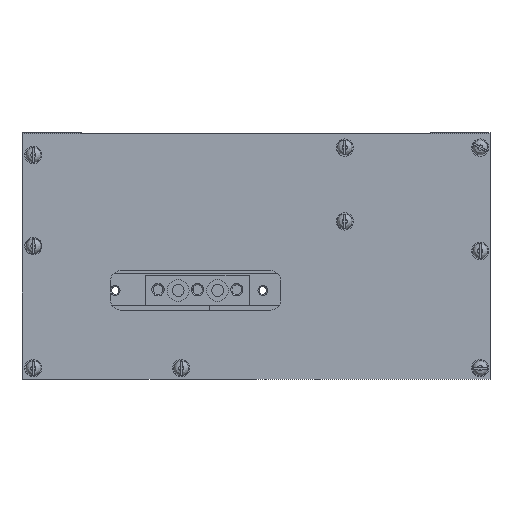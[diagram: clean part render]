
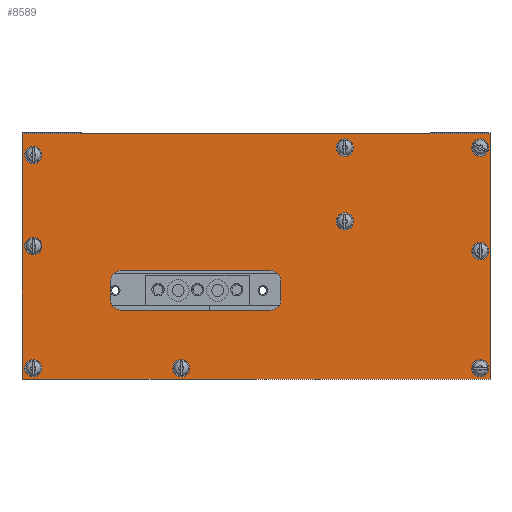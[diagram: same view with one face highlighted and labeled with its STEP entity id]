
A CAD part, top view. The second image highlights one B-rep face of the part: STEP entity #8589.
In plain terms, the highlighted planar face has unit normal (0, 0, 1).
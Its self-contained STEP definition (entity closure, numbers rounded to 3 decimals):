
#5857=CARTESIAN_POINT('',(52.5,-21.22,1.598));
#5858=VERTEX_POINT('',#5857);
#5865=CARTESIAN_POINT('',(52.5,-17.22,1.598));
#5866=VERTEX_POINT('',#5865);
#5867=CARTESIAN_POINT('',(52.5,-17.22,1.598));
#5868=DIRECTION('',(0.0,-1.0,0.0));
#5869=VECTOR('',#5868,4.0);
#5870=LINE('',#5867,#5869);
#5871=EDGE_CURVE('',#5866,#5858,#5870,.T.);
#5897=CARTESIAN_POINT('',(50.5,-15.22,1.598));
#5898=VERTEX_POINT('',#5897);
#5899=CARTESIAN_POINT('',(50.5,-17.22,1.598));
#5900=DIRECTION('',(0.0,0.0,-1.0));
#5901=DIRECTION('',(-1.0,0.0,0.0));
#5902=AXIS2_PLACEMENT_3D('',#5899,#5900,#5901);
#5903=CIRCLE('',#5902,2.);
#5904=EDGE_CURVE('',#5898,#5866,#5903,.T.);
#5929=CARTESIAN_POINT('',(20.0,-15.22,1.598));
#5930=VERTEX_POINT('',#5929);
#5931=CARTESIAN_POINT('',(20.0,-15.22,1.598));
#5932=DIRECTION('',(1.0,0.0,0.0));
#5933=VECTOR('',#5932,30.5);
#5934=LINE('',#5931,#5933);
#5935=EDGE_CURVE('',#5930,#5898,#5934,.T.);
#5961=CARTESIAN_POINT('',(18.,-17.22,1.598));
#5962=VERTEX_POINT('',#5961);
#5963=CARTESIAN_POINT('',(20.0,-17.22,1.598));
#5964=DIRECTION('',(0.0,0.0,-1.0));
#5965=DIRECTION('',(0.0,-1.0,0.0));
#5966=AXIS2_PLACEMENT_3D('',#5963,#5964,#5965);
#5967=CIRCLE('',#5966,2.0);
#5968=EDGE_CURVE('',#5962,#5930,#5967,.T.);
#5993=CARTESIAN_POINT('',(18.,-21.22,1.598));
#5994=VERTEX_POINT('',#5993);
#5995=CARTESIAN_POINT('',(18.,-21.22,1.598));
#5996=DIRECTION('',(0.0,1.0,0.0));
#5997=VECTOR('',#5996,4.0);
#5998=LINE('',#5995,#5997);
#5999=EDGE_CURVE('',#5994,#5962,#5998,.T.);
#6025=CARTESIAN_POINT('',(20.0,-23.22,1.598));
#6026=VERTEX_POINT('',#6025);
#6027=CARTESIAN_POINT('',(20.0,-21.22,1.598));
#6028=DIRECTION('',(0.0,0.0,-1.0));
#6029=DIRECTION('',(1.0,0.0,0.0));
#6030=AXIS2_PLACEMENT_3D('',#6027,#6028,#6029);
#6031=CIRCLE('',#6030,2.);
#6032=EDGE_CURVE('',#6026,#5994,#6031,.T.);
#6057=CARTESIAN_POINT('',(50.5,-23.22,1.598));
#6058=VERTEX_POINT('',#6057);
#6059=CARTESIAN_POINT('',(50.5,-23.22,1.598));
#6060=DIRECTION('',(-1.0,0.0,0.0));
#6061=VECTOR('',#6060,30.5);
#6062=LINE('',#6059,#6061);
#6063=EDGE_CURVE('',#6058,#6026,#6062,.T.);
#6087=CARTESIAN_POINT('',(50.5,-21.22,1.598));
#6088=DIRECTION('',(0.0,0.0,-1.0));
#6089=DIRECTION('',(0.0,1.0,0.0));
#6090=AXIS2_PLACEMENT_3D('',#6087,#6088,#6089);
#6091=CIRCLE('',#6090,2.);
#6092=EDGE_CURVE('',#5858,#6058,#6091,.T.);
#7119=CARTESIAN_POINT('',(67.25,-5.22,1.598));
#7120=VERTEX_POINT('',#7119);
#7121=CARTESIAN_POINT('',(65.5,-5.22,1.598));
#7122=DIRECTION('',(0.0,0.0,-1.0));
#7123=DIRECTION('',(1.0,0.0,0.0));
#7124=AXIS2_PLACEMENT_3D('',#7121,#7122,#7123);
#7125=CIRCLE('',#7124,1.75);
#7126=EDGE_CURVE('',#7120,#7120,#7125,.T.);
#7179=CARTESIAN_POINT('',(94.75,-35.02,1.598));
#7180=VERTEX_POINT('',#7179);
#7181=CARTESIAN_POINT('',(93.0,-35.02,1.598));
#7182=DIRECTION('',(0.0,0.0,-1.0));
#7183=DIRECTION('',(1.0,0.0,0.0));
#7184=AXIS2_PLACEMENT_3D('',#7181,#7182,#7183);
#7185=CIRCLE('',#7184,1.75);
#7186=EDGE_CURVE('',#7180,#7180,#7185,.T.);
#7239=CARTESIAN_POINT('',(94.75,-11.22,1.598));
#7240=VERTEX_POINT('',#7239);
#7241=CARTESIAN_POINT('',(93.0,-11.22,1.598));
#7242=DIRECTION('',(0.0,0.0,-1.0));
#7243=DIRECTION('',(1.0,0.0,0.0));
#7244=AXIS2_PLACEMENT_3D('',#7241,#7242,#7243);
#7245=CIRCLE('',#7244,1.75);
#7246=EDGE_CURVE('',#7240,#7240,#7245,.T.);
#7299=CARTESIAN_POINT('',(34.05,-35.02,1.598));
#7300=VERTEX_POINT('',#7299);
#7301=CARTESIAN_POINT('',(32.3,-35.02,1.598));
#7302=DIRECTION('',(0.0,0.0,-1.0));
#7303=DIRECTION('',(1.0,0.0,0.0));
#7304=AXIS2_PLACEMENT_3D('',#7301,#7302,#7303);
#7305=CIRCLE('',#7304,1.75);
#7306=EDGE_CURVE('',#7300,#7300,#7305,.T.);
#7525=CARTESIAN_POINT('',(0.0,-37.22,1.598));
#7526=VERTEX_POINT('',#7525);
#7533=CARTESIAN_POINT('',(0.,12.58,1.598));
#7534=VERTEX_POINT('',#7533);
#7535=CARTESIAN_POINT('',(0.0,-37.22,1.598));
#7536=DIRECTION('',(0.0,1.0,0.0));
#7537=VECTOR('',#7536,49.8);
#7538=LINE('',#7535,#7537);
#7539=EDGE_CURVE('',#7526,#7534,#7538,.T.);
#7584=CARTESIAN_POINT('',(67.25,9.78,1.598));
#7585=VERTEX_POINT('',#7584);
#7586=CARTESIAN_POINT('',(65.5,9.78,1.598));
#7587=DIRECTION('',(0.0,0.0,-1.0));
#7588=DIRECTION('',(1.0,0.0,0.0));
#7589=AXIS2_PLACEMENT_3D('',#7586,#7587,#7588);
#7590=CIRCLE('',#7589,1.75);
#7591=EDGE_CURVE('',#7585,#7585,#7590,.T.);
#7656=CARTESIAN_POINT('',(94.75,9.78,1.598));
#7657=VERTEX_POINT('',#7656);
#7658=CARTESIAN_POINT('',(93.0,9.78,1.598));
#7659=DIRECTION('',(0.0,0.0,-1.0));
#7660=DIRECTION('',(1.0,0.0,0.0));
#7661=AXIS2_PLACEMENT_3D('',#7658,#7659,#7660);
#7662=CIRCLE('',#7661,1.75);
#7663=EDGE_CURVE('',#7657,#7657,#7662,.T.);
#8036=CARTESIAN_POINT('',(4.05,-10.22,1.598));
#8037=VERTEX_POINT('',#8036);
#8038=CARTESIAN_POINT('',(2.3,-10.22,1.598));
#8039=DIRECTION('',(0.0,0.0,-1.0));
#8040=DIRECTION('',(1.0,0.0,0.0));
#8041=AXIS2_PLACEMENT_3D('',#8038,#8039,#8040);
#8042=CIRCLE('',#8041,1.75);
#8043=EDGE_CURVE('',#8037,#8037,#8042,.T.);
#8355=CARTESIAN_POINT('',(4.05,-35.02,1.598));
#8356=VERTEX_POINT('',#8355);
#8357=CARTESIAN_POINT('',(2.3,-35.02,1.598));
#8358=DIRECTION('',(0.0,0.0,-1.0));
#8359=DIRECTION('',(1.0,0.0,0.0));
#8360=AXIS2_PLACEMENT_3D('',#8357,#8358,#8359);
#8361=CIRCLE('',#8360,1.75);
#8362=EDGE_CURVE('',#8356,#8356,#8361,.T.);
#8449=CARTESIAN_POINT('',(4.05,8.28,1.598));
#8450=VERTEX_POINT('',#8449);
#8451=CARTESIAN_POINT('',(2.3,8.28,1.598));
#8452=DIRECTION('',(0.0,0.0,-1.0));
#8453=DIRECTION('',(1.0,0.0,0.0));
#8454=AXIS2_PLACEMENT_3D('',#8451,#8452,#8453);
#8455=CIRCLE('',#8454,1.75);
#8456=EDGE_CURVE('',#8450,#8450,#8455,.T.);
#8481=CARTESIAN_POINT('',(95.0,12.58,1.598));
#8482=VERTEX_POINT('',#8481);
#8483=CARTESIAN_POINT('',(95.0,-37.22,1.598));
#8484=VERTEX_POINT('',#8483);
#8485=CARTESIAN_POINT('',(95.0,12.58,1.598));
#8486=DIRECTION('',(0.0,-1.0,0.0));
#8487=VECTOR('',#8486,49.8);
#8488=LINE('',#8485,#8487);
#8489=EDGE_CURVE('',#8482,#8484,#8488,.T.);
#8512=CARTESIAN_POINT('',(95.0,-37.22,1.598));
#8513=DIRECTION('',(-1.0,0.0,0.0));
#8514=VECTOR('',#8513,95.0);
#8515=LINE('',#8512,#8514);
#8516=EDGE_CURVE('',#8484,#7526,#8515,.T.);
#8529=CARTESIAN_POINT('',(0.,12.58,1.598));
#8530=DIRECTION('',(1.0,0.0,0.0));
#8531=VECTOR('',#8530,95.0);
#8532=LINE('',#8529,#8531);
#8533=EDGE_CURVE('',#7534,#8482,#8532,.T.);
#8541=CARTESIAN_POINT('',(-4.75,-39.71,1.598));
#8542=DIRECTION('',(0.0,0.0,1.0));
#8543=DIRECTION('',(1.0,0.0,0.0));
#8544=AXIS2_PLACEMENT_3D('',#8541,#8542,#8543);
#8545=PLANE('',#8544);
#8546=ORIENTED_EDGE('',*,*,#8489,.F.);
#8547=ORIENTED_EDGE('',*,*,#8533,.F.);
#8548=ORIENTED_EDGE('',*,*,#7539,.F.);
#8549=ORIENTED_EDGE('',*,*,#8516,.F.);
#8550=EDGE_LOOP('',(#8546,#8547,#8548,#8549));
#8551=FACE_OUTER_BOUND('',#8550,.T.);
#8552=ORIENTED_EDGE('',*,*,#5999,.T.);
#8553=ORIENTED_EDGE('',*,*,#5968,.T.);
#8554=ORIENTED_EDGE('',*,*,#5935,.T.);
#8555=ORIENTED_EDGE('',*,*,#5904,.T.);
#8556=ORIENTED_EDGE('',*,*,#5871,.T.);
#8557=ORIENTED_EDGE('',*,*,#6092,.T.);
#8558=ORIENTED_EDGE('',*,*,#6063,.T.);
#8559=ORIENTED_EDGE('',*,*,#6032,.T.);
#8560=EDGE_LOOP('',(#8552,#8553,#8554,#8555,#8556,#8557,#8558,#8559));
#8561=FACE_BOUND('',#8560,.T.);
#8562=ORIENTED_EDGE('',*,*,#7126,.T.);
#8563=EDGE_LOOP('',(#8562));
#8564=FACE_BOUND('',#8563,.T.);
#8565=ORIENTED_EDGE('',*,*,#7186,.T.);
#8566=EDGE_LOOP('',(#8565));
#8567=FACE_BOUND('',#8566,.T.);
#8568=ORIENTED_EDGE('',*,*,#7246,.T.);
#8569=EDGE_LOOP('',(#8568));
#8570=FACE_BOUND('',#8569,.T.);
#8571=ORIENTED_EDGE('',*,*,#7306,.T.);
#8572=EDGE_LOOP('',(#8571));
#8573=FACE_BOUND('',#8572,.T.);
#8574=ORIENTED_EDGE('',*,*,#7591,.T.);
#8575=EDGE_LOOP('',(#8574));
#8576=FACE_BOUND('',#8575,.T.);
#8577=ORIENTED_EDGE('',*,*,#7663,.T.);
#8578=EDGE_LOOP('',(#8577));
#8579=FACE_BOUND('',#8578,.T.);
#8580=ORIENTED_EDGE('',*,*,#8362,.T.);
#8581=EDGE_LOOP('',(#8580));
#8582=FACE_BOUND('',#8581,.T.);
#8583=ORIENTED_EDGE('',*,*,#8043,.T.);
#8584=EDGE_LOOP('',(#8583));
#8585=FACE_BOUND('',#8584,.T.);
#8586=ORIENTED_EDGE('',*,*,#8456,.T.);
#8587=EDGE_LOOP('',(#8586));
#8588=FACE_BOUND('',#8587,.T.);
#8589=ADVANCED_FACE('',(#8551,#8561,#8564,#8567,#8570,#8573,#8576,#8579,#8582,#8585,#8588),#8545,.T.);
